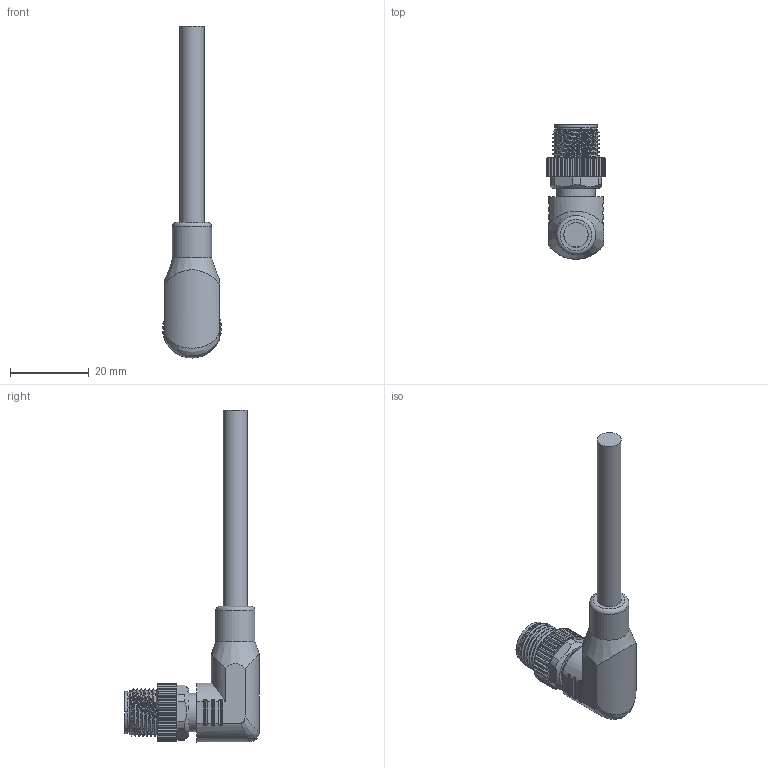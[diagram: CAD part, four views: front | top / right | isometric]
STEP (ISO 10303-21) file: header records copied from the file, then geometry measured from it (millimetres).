
FILE_DESCRIPTION(/* description */ (''),/* implementation_level */ '2;1');
FILE_NAME(/* name */ 'M12-8MR.P-L.stp',/* time_stamp */ '2025-05-20T14:26:33+08:00',/* author */ (''),/* organization */ (''),/* preprocessor_version */ 'ST-DEVELOPER v16.7',/* originating_system */ 'SIEMENS PLM Software NX 12.0',/* authorisation */ '');
FILE_SCHEMA (('AUTOMOTIVE_DESIGN { 1 0 10303 214 3 1 1 1 }'));
Length unit declared in the file: millimetre
Products named in the file (1): Admi3EE09BE8jr5g
Bounding box: 15 x 34.25 x 84.5 mm (x, y, z)
Volume: 8057.7 mm3; surface area: 4712.7 mm2
Topology: 1 solids, 9 shells, 540 faces, 1493 edges, 982 vertices
Faces by surface type: plane 208, cylinder 200, cone 89, extrusion 16, bspline 13, sphere 8, torus 6
Full cylindrical faces by diameter (mm): 0.8 x16, 0.9 x16, 6.2 x1, 9.8 x1, 10 x2
Entity records: 19679 total; most frequent: CARTESIAN_POINT 6482, ORIENTED_EDGE 2820, DIRECTION 2577, EDGE_CURVE 1410, VERTEX_POINT 954, AXIS2_PLACEMENT_3D 950, VECTOR 677, LINE 661
